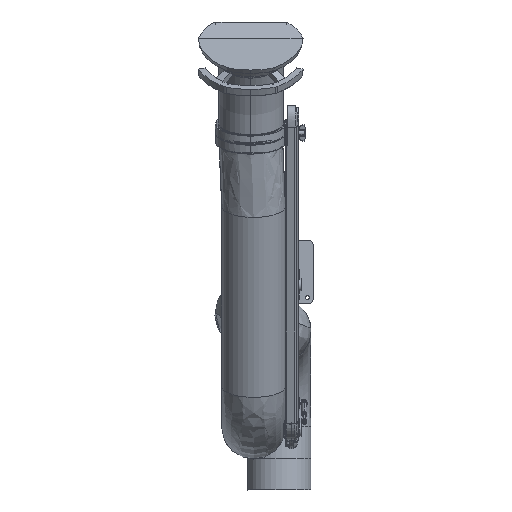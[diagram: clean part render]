
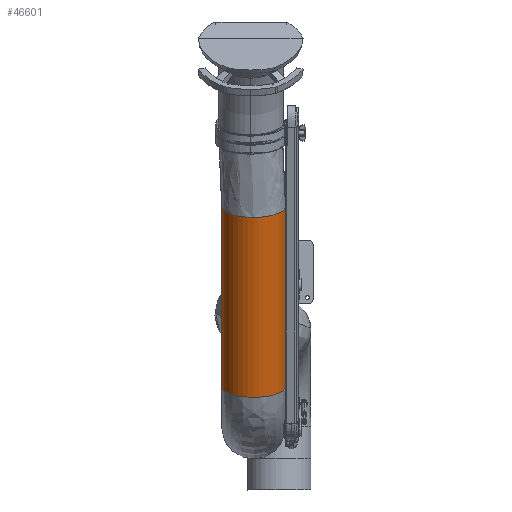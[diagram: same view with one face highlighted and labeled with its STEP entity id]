
A CAD part, front view. The second image highlights one B-rep face of the part: STEP entity #46601.
In plain terms, the highlighted free-form (B-spline) face has degree [3, 3] with [7, 6] control points.
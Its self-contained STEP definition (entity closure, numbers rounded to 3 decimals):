
#44812=CARTESIAN_POINT('',(-180.,0.,-275.));
#44813=CARTESIAN_POINT('',(-180.,0.,-341.667));
#44814=CARTESIAN_POINT('',(-180.,0.,-475.));
#44815=CARTESIAN_POINT('',(-180.,0.,-675.));
#44816=CARTESIAN_POINT('',(-180.,0.,-808.333));
#44817=CARTESIAN_POINT('',(-180.,0.,-875.));
#44822=CARTESIAN_POINT('',(-80.,0.,-275.));
#44823=DIRECTION('',(0.,0.,-1.));
#44824=DIRECTION('',(1.,0.,0.));
#44825=AXIS2_PLACEMENT_3D('',#44822,#44823,#44824);
#44830=CARTESIAN_POINT('',(20.,0.,-275.));
#44831=CARTESIAN_POINT('',(20.,0.,-341.667));
#44832=CARTESIAN_POINT('',(20.,0.,-475.));
#44833=CARTESIAN_POINT('',(20.,0.,-675.));
#44834=CARTESIAN_POINT('',(20.,0.,-808.333));
#44835=CARTESIAN_POINT('',(20.,0.,-875.));
#44840=CARTESIAN_POINT('',(-80.,0.,-875.));
#44841=DIRECTION('',(0.,0.,-1.));
#44842=DIRECTION('',(1.,0.,0.));
#44843=AXIS2_PLACEMENT_3D('',#44840,#44841,#44842);
#46238=CARTESIAN_POINT('',(20.,0.,-275.));
#46239=CARTESIAN_POINT('',(-180.,0.,-275.));
#46240=VERTEX_POINT('',#46238);
#46241=VERTEX_POINT('',#46239);
#46246=CARTESIAN_POINT('',(20.,0.,-875.));
#46247=CARTESIAN_POINT('',(-180.,0.,-875.));
#46248=VERTEX_POINT('',#46246);
#46249=VERTEX_POINT('',#46247);
#46551=CARTESIAN_POINT('',(19.803,6.279,-263.));
#46552=CARTESIAN_POINT('',(19.803,6.279,-267.));
#46553=CARTESIAN_POINT('',(19.803,6.279,-471.));
#46554=CARTESIAN_POINT('',(19.803,6.279,-679.));
#46555=CARTESIAN_POINT('',(19.803,6.279,-883.));
#46556=CARTESIAN_POINT('',(19.803,6.279,-887.));
#46557=CARTESIAN_POINT('',(23.667,-55.139,-263.));
#46558=CARTESIAN_POINT('',(23.667,-55.139,-267.));
#46559=CARTESIAN_POINT('',(23.667,-55.139,-471.));
#46560=CARTESIAN_POINT('',(23.667,-55.139,-679.));
#46561=CARTESIAN_POINT('',(23.667,-55.139,-883.));
#46562=CARTESIAN_POINT('',(23.667,-55.139,-887.));
#46563=CARTESIAN_POINT('',(-18.46,-100.,-263.));
#46564=CARTESIAN_POINT('',(-18.46,-100.,-267.));
#46565=CARTESIAN_POINT('',(-18.46,-100.,-471.));
#46566=CARTESIAN_POINT('',(-18.46,-100.,-679.));
#46567=CARTESIAN_POINT('',(-18.46,-100.,-883.));
#46568=CARTESIAN_POINT('',(-18.46,-100.,-887.));
#46569=CARTESIAN_POINT('',(-80.,-100.,-263.));
#46570=CARTESIAN_POINT('',(-80.,-100.,-267.));
#46571=CARTESIAN_POINT('',(-80.,-100.,-471.));
#46572=CARTESIAN_POINT('',(-80.,-100.,-679.));
#46573=CARTESIAN_POINT('',(-80.,-100.,-883.));
#46574=CARTESIAN_POINT('',(-80.,-100.,-887.));
#46575=CARTESIAN_POINT('',(-141.54,-100.,-263.));
#46576=CARTESIAN_POINT('',(-141.54,-100.,-267.));
#46577=CARTESIAN_POINT('',(-141.54,-100.,-471.));
#46578=CARTESIAN_POINT('',(-141.54,-100.,-679.));
#46579=CARTESIAN_POINT('',(-141.54,-100.,-883.));
#46580=CARTESIAN_POINT('',(-141.54,-100.,-887.));
#46581=CARTESIAN_POINT('',(-183.667,-55.139,-263.));
#46582=CARTESIAN_POINT('',(-183.667,-55.139,-267.));
#46583=CARTESIAN_POINT('',(-183.667,-55.139,-471.));
#46584=CARTESIAN_POINT('',(-183.667,-55.139,-679.));
#46585=CARTESIAN_POINT('',(-183.667,-55.139,-883.));
#46586=CARTESIAN_POINT('',(-183.667,-55.139,-887.));
#46587=CARTESIAN_POINT('',(-179.803,6.279,-263.));
#46588=CARTESIAN_POINT('',(-179.803,6.279,-267.));
#46589=CARTESIAN_POINT('',(-179.803,6.279,-471.));
#46590=CARTESIAN_POINT('',(-179.803,6.279,-679.));
#46591=CARTESIAN_POINT('',(-179.803,6.279,-883.));
#46592=CARTESIAN_POINT('',(-179.803,6.279,-887.));
#46593=(BOUNDED_SURFACE()B_SPLINE_SURFACE(3,3,((#46551,#46552,#46553,#46554,
#46555,#46556),(#46557,#46558,#46559,#46560,#46561,#46562),(#46563,#46564,
#46565,#46566,#46567,#46568),(#46569,#46570,#46571,#46572,#46573,#46574),
(#46575,#46576,#46577,#46578,#46579,#46580),(#46581,#46582,#46583,#46584,#46585,
#46586),(#46587,#46588,#46589,#46590,#46591,#46592)),.UNSPECIFIED.,.F.,.F.,.F.)B_SPLINE_SURFACE_WITH_KNOTS((4,3,4),(4,1,1,4),(0.,1.,2.),(-0.02,0.,1.,
1.02),.UNSPECIFIED.)GEOMETRIC_REPRESENTATION_ITEM()RATIONAL_B_SPLINE_SURFACE((
(1.187,1.187,1.187,1.187,
1.187,1.187),(0.938,0.938,
0.938,0.938,0.938,0.938),(
0.938,0.938,0.938,0.938,
0.938,0.938),(1.187,1.187,
1.187,1.187,1.187,1.187),(
0.938,0.938,0.938,0.938,
0.938,0.938),(0.938,0.938,
0.938,0.938,0.938,0.938),(
1.187,1.187,1.187,1.187,
1.187,1.187)))REPRESENTATION_ITEM('')SURFACE());
#46594=ORIENTED_EDGE('',*,*,#46398,.F.);
#46595=ORIENTED_EDGE('',*,*,#46539,.T.);
#46597=ORIENTED_EDGE('',*,*,#46596,.T.);
#46598=ORIENTED_EDGE('',*,*,#46535,.F.);
#46599=EDGE_LOOP('',(#46594,#46595,#46597,#46598));
#46600=FACE_OUTER_BOUND('',#46599,.F.);
#44818=B_SPLINE_CURVE_WITH_KNOTS('',3,(#44812,#44813,#44814,#44815,#44816,
#44817),.UNSPECIFIED.,.F.,.F.,(4,1,1,4),(0.,0.333,
0.667,1.),.UNSPECIFIED.);
#44826=CIRCLE('',#44825,100.);
#44836=B_SPLINE_CURVE_WITH_KNOTS('',3,(#44830,#44831,#44832,#44833,#44834,
#44835),.UNSPECIFIED.,.F.,.F.,(4,1,1,4),(0.,0.333,
0.667,1.),.UNSPECIFIED.);
#44844=CIRCLE('',#44843,100.);
#46398=EDGE_CURVE('',#46240,#46241,#44826,.T.);
#46535=EDGE_CURVE('',#46241,#46249,#44818,.T.);
#46539=EDGE_CURVE('',#46240,#46248,#44836,.T.);
#46596=EDGE_CURVE('',#46248,#46249,#44844,.T.);
#46601=ADVANCED_FACE('',(#46600),#46593,.T.);
